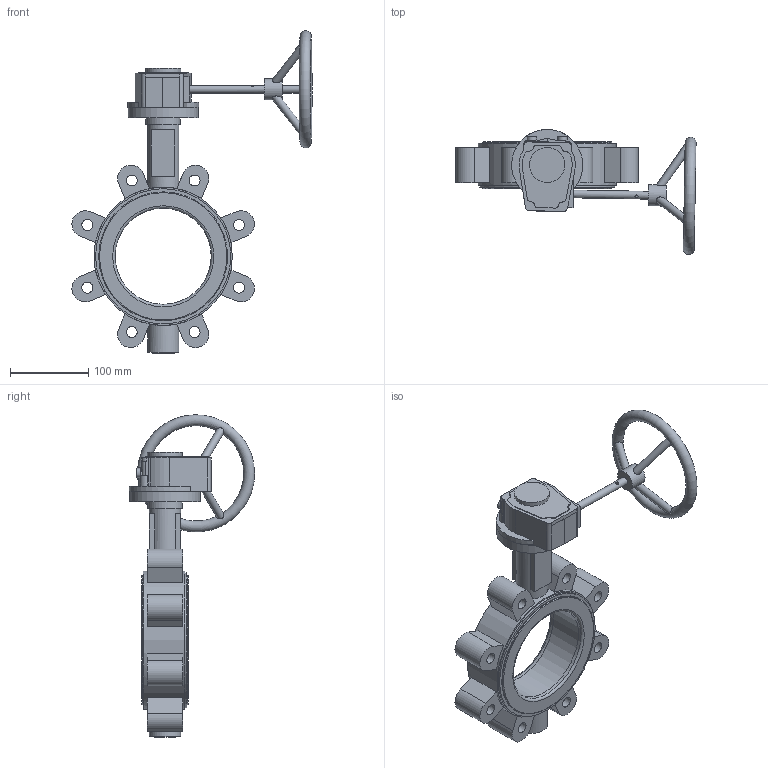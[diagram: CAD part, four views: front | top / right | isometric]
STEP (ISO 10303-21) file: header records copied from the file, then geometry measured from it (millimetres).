
FILE_DESCRIPTION (( 'STEP AP214' ), '1' );
FILE_NAME ('2502 LT型中线衬胶带销 手动头蝶阀 DN125 PN16 CD0309119.STEP', '2026-03-25T06:55:06', ( '' ), ( '' ), 'SwSTEP 2.0', 'SolidWorks 2018', '' );
FILE_SCHEMA (( 'AUTOMOTIVE_DESIGN' ));
Length unit declared in the file: millimetre
Products named in the file (5): 2502 LT型中线衬胶带销 手动头蝶阀 DN125 PN16 CD0309119; GALA-D125-01LC-00; 六角螺塞 M24X1.5; G12L忒雄芛 潠趙; GALA-D125-04AZC-00
Assembly tree (4 placements, depth 2):
  2502 LT型中线衬胶带销 手动头蝶阀 DN125 PN16 CD0309119
    GALA-D125-04AZC-00
    六角螺塞 M24X1.5
    GALA-D125-01LC-00
    G12L忒雄芛 潠趙
Bounding box: 307.27 x 160.16 x 412.56 mm (x, y, z)
Volume: 1715307.8 mm3; surface area: 312181.9 mm2
Topology: 5 solids, 10 shells, 275 faces, 697 edges, 460 vertices
Faces by surface type: plane 127, cylinder 122, cone 9, torus 9, bspline 6, sphere 2
Full cylindrical faces by diameter (mm): 4 x1, 10 x9, 12 x2, 14 x8, 22 x1, 27 x1, 29 x1, 31 x1, 31.6 x1, 34 x1, 40 x2, 44 x1, 45 x1, 90 x1, 91 x1, 123.001 x1, 131 x2, 165 x4, 173 x1, 177 x1
Entity records: 10968 total; most frequent: CARTESIAN_POINT 2949, DIRECTION 1252, ORIENTED_EDGE 1230, EDGE_CURVE 615, AXIS2_PLACEMENT_3D 486, VERTEX_POINT 437, EDGE_LOOP 388, FACE_OUTER_BOUND 323
